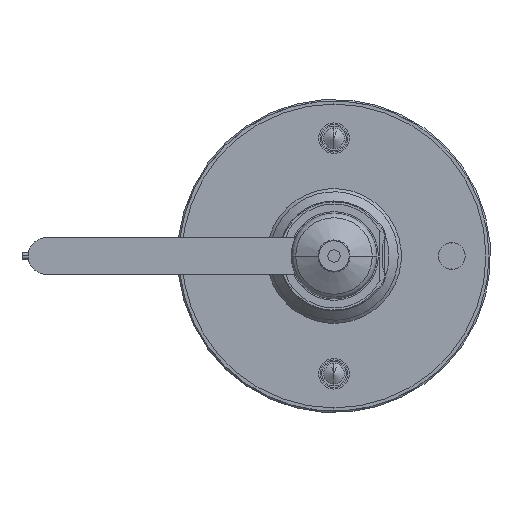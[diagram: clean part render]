
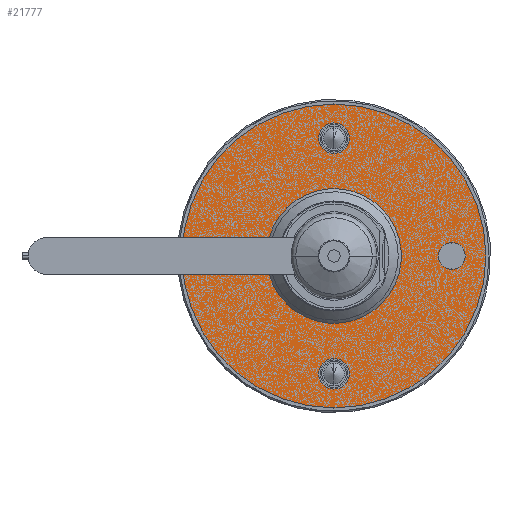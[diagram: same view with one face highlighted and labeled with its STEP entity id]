
A CAD part, front view. The second image highlights one B-rep face of the part: STEP entity #21777.
In plain terms, the highlighted planar face has unit normal (0, -1, 0) as drawn and (0, 0, -1) by its records, which use the part's own axes.
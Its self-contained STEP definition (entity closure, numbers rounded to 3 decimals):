
#659 = CARTESIAN_POINT ( 'NONE',  ( 0., 0., 0. ) ) ;
#949 = DIRECTION ( 'NONE',  ( -1., 0., 0. ) ) ;
#1660 = ORIENTED_EDGE ( 'NONE', *, *, #3667, .T. ) ;
#1855 = EDGE_LOOP ( 'NONE', ( #1660, #26849 ) ) ;
#2011 = ORIENTED_EDGE ( 'NONE', *, *, #3185, .T. ) ;
#2389 = DIRECTION ( 'NONE',  ( 0., 0., -1. ) ) ;
#2668 = FACE_OUTER_BOUND ( 'NONE', #6299, .T. ) ;
#2915 = CARTESIAN_POINT ( 'NONE',  ( 33.5, 0., 0. ) ) ;
#3137 = CARTESIAN_POINT ( 'NONE',  ( -49.675, 0., 0. ) ) ;
#3185 = EDGE_CURVE ( 'NONE', #14459, #20600, #3678, .T. ) ;
#3506 = ORIENTED_EDGE ( 'NONE', *, *, #26904, .T. ) ;
#3667 = EDGE_CURVE ( 'NONE', #15267, #5363, #17283, .T. ) ;
#3678 = CIRCLE ( 'NONE', #22767, 5. ) ;
#3684 = CARTESIAN_POINT ( 'NONE',  ( 49.675, 0., 0. ) ) ;
#4007 = CARTESIAN_POINT ( 'NONE',  ( 16.5, 0., 0. ) ) ;
#4011 = DIRECTION ( 'NONE',  ( 0., 0., 1. ) ) ;
#4138 = CIRCLE ( 'NONE', #11405, 5. ) ;
#4640 = CIRCLE ( 'NONE', #6511, 4.4 ) ;
#4731 = EDGE_CURVE ( 'NONE', #5363, #15267, #22352, .T. ) ;
#4750 = EDGE_CURVE ( 'NONE', #22793, #28224, #14608, .T. ) ;
#5020 = AXIS2_PLACEMENT_3D ( 'NONE', #21919, #4011, #12689 ) ;
#5095 = CIRCLE ( 'NONE', #9709, 16.5 ) ;
#5117 = ORIENTED_EDGE ( 'NONE', *, *, #11579, .T. ) ;
#5154 = CIRCLE ( 'NONE', #15597, 49.675 ) ;
#5174 = ORIENTED_EDGE ( 'NONE', *, *, #12600, .T. ) ;
#5363 = VERTEX_POINT ( 'NONE', #22102 ) ;
#5372 = DIRECTION ( 'NONE',  ( -1., 0., 0. ) ) ;
#5770 = CIRCLE ( 'NONE', #19877, 49.675 ) ;
#5864 = CARTESIAN_POINT ( 'NONE',  ( 0., 38.5, 0. ) ) ;
#5988 = DIRECTION ( 'NONE',  ( -1., 0., 0. ) ) ;
#6147 = FACE_BOUND ( 'NONE', #1855, .T. ) ;
#6299 = EDGE_LOOP ( 'NONE', ( #26790, #28180 ) ) ;
#6353 = VERTEX_POINT ( 'NONE', #22999 ) ;
#6511 = AXIS2_PLACEMENT_3D ( 'NONE', #5864, #14525, #12814 ) ;
#7248 = ORIENTED_EDGE ( 'NONE', *, *, #4750, .T. ) ;
#7311 = DIRECTION ( 'NONE',  ( -1., 0., 0. ) ) ;
#7318 = CIRCLE ( 'NONE', #20994, 5. ) ;
#7499 = DIRECTION ( 'NONE',  ( 0., 0., -1. ) ) ;
#7634 = ORIENTED_EDGE ( 'NONE', *, *, #8896, .T. ) ;
#7784 = AXIS2_PLACEMENT_3D ( 'NONE', #8521, #25528, #5988 ) ;
#8148 = CARTESIAN_POINT ( 'NONE',  ( 4.4, 38.5, 0. ) ) ;
#8271 = EDGE_CURVE ( 'NONE', #27593, #22285, #27220, .T. ) ;
#8521 = CARTESIAN_POINT ( 'NONE',  ( 0., -38.5, 0. ) ) ;
#8655 = DIRECTION ( 'NONE',  ( 0., 0., 1. ) ) ;
#8667 = EDGE_CURVE ( 'NONE', #28224, #22793, #7318, .T. ) ;
#8701 = CARTESIAN_POINT ( 'NONE',  ( 43.5, 0., 0. ) ) ;
#8797 = CARTESIAN_POINT ( 'NONE',  ( 0., 0., 0. ) ) ;
#8896 = EDGE_CURVE ( 'NONE', #20600, #14459, #4138, .T. ) ;
#9709 = AXIS2_PLACEMENT_3D ( 'NONE', #26323, #17870, #13581 ) ;
#9762 = DIRECTION ( 'NONE',  ( -1., 0., 0. ) ) ;
#11214 = FACE_BOUND ( 'NONE', #15046, .T. ) ;
#11405 = AXIS2_PLACEMENT_3D ( 'NONE', #26854, #16413, #7311 ) ;
#11579 = EDGE_CURVE ( 'NONE', #22285, #27593, #4640, .T. ) ;
#11642 = DIRECTION ( 'NONE',  ( 0., 0., 1. ) ) ;
#12465 = CARTESIAN_POINT ( 'NONE',  ( -33.5, 0., 0. ) ) ;
#12600 = EDGE_CURVE ( 'NONE', #6353, #25990, #5095, .T. ) ;
#12689 = DIRECTION ( 'NONE',  ( -1., 0., 0. ) ) ;
#12814 = DIRECTION ( 'NONE',  ( -1., 0., 0. ) ) ;
#13156 = AXIS2_PLACEMENT_3D ( 'NONE', #4007, #2389, #17617 ) ;
#13344 = FACE_BOUND ( 'NONE', #23697, .T. ) ;
#13478 = FACE_BOUND ( 'NONE', #21031, .T. ) ;
#13479 = AXIS2_PLACEMENT_3D ( 'NONE', #8797, #21356, #15330 ) ;
#13581 = DIRECTION ( 'NONE',  ( 1., 0., 0. ) ) ;
#14417 = VERTEX_POINT ( 'NONE', #3684 ) ;
#14459 = VERTEX_POINT ( 'NONE', #8701 ) ;
#14525 = DIRECTION ( 'NONE',  ( 0., 0., 1. ) ) ;
#14608 = CIRCLE ( 'NONE', #27381, 5. ) ;
#15046 = EDGE_LOOP ( 'NONE', ( #7248, #17207 ) ) ;
#15267 = VERTEX_POINT ( 'NONE', #21910 ) ;
#15330 = DIRECTION ( 'NONE',  ( 1., 0., 0. ) ) ;
#15597 = AXIS2_PLACEMENT_3D ( 'NONE', #26897, #7499, #5372 ) ;
#15891 = DIRECTION ( 'NONE',  ( -1., 0., 0. ) ) ;
#16276 = ORIENTED_EDGE ( 'NONE', *, *, #8271, .T. ) ;
#16413 = DIRECTION ( 'NONE',  ( 0., 0., 1. ) ) ;
#17174 = AXIS2_PLACEMENT_3D ( 'NONE', #17519, #11642, #949 ) ;
#17207 = ORIENTED_EDGE ( 'NONE', *, *, #8667, .T. ) ;
#17283 = CIRCLE ( 'NONE', #5020, 4.4 ) ;
#17519 = CARTESIAN_POINT ( 'NONE',  ( 0., 38.5, 0. ) ) ;
#17617 = DIRECTION ( 'NONE',  ( -1., 0., 0. ) ) ;
#17870 = DIRECTION ( 'NONE',  ( 0., 0., 1. ) ) ;
#18306 = CARTESIAN_POINT ( 'NONE',  ( -38.5, 0., 0. ) ) ;
#19150 = CARTESIAN_POINT ( 'NONE',  ( -4.4, 38.5, 0. ) ) ;
#19877 = AXIS2_PLACEMENT_3D ( 'NONE', #659, #24488, #15891 ) ;
#20063 = FACE_BOUND ( 'NONE', #25107, .T. ) ;
#20600 = VERTEX_POINT ( 'NONE', #2915 ) ;
#20994 = AXIS2_PLACEMENT_3D ( 'NONE', #18306, #22601, #9762 ) ;
#21031 = EDGE_LOOP ( 'NONE', ( #7634, #2011 ) ) ;
#21125 = EDGE_CURVE ( 'NONE', #14417, #24565, #5154, .T. ) ;
#21228 = CARTESIAN_POINT ( 'NONE',  ( -38.5, 0., 0. ) ) ;
#21356 = DIRECTION ( 'NONE',  ( 0., 0., 1. ) ) ;
#21777 = ADVANCED_FACE ( 'NONE', ( #2668, #6147, #20063, #13478, #11214, #13344 ), #27961, .T. ) ;
#21910 = CARTESIAN_POINT ( 'NONE',  ( -4.4, -38.5, 0. ) ) ;
#21919 = CARTESIAN_POINT ( 'NONE',  ( 0., -38.5, 0. ) ) ;
#22102 = CARTESIAN_POINT ( 'NONE',  ( 4.4, -38.5, 0. ) ) ;
#22285 = VERTEX_POINT ( 'NONE', #19150 ) ;
#22352 = CIRCLE ( 'NONE', #7784, 4.4 ) ;
#22601 = DIRECTION ( 'NONE',  ( 0., 0., 1. ) ) ;
#22767 = AXIS2_PLACEMENT_3D ( 'NONE', #25417, #25555, #23404 ) ;
#22793 = VERTEX_POINT ( 'NONE', #23272 ) ;
#22999 = CARTESIAN_POINT ( 'NONE',  ( -16.5, 0., 0. ) ) ;
#23094 = EDGE_CURVE ( 'NONE', #24565, #14417, #5770, .T. ) ;
#23272 = CARTESIAN_POINT ( 'NONE',  ( -43.5, 0., 0. ) ) ;
#23404 = DIRECTION ( 'NONE',  ( -1., 0., 0. ) ) ;
#23697 = EDGE_LOOP ( 'NONE', ( #3506, #5174 ) ) ;
#24488 = DIRECTION ( 'NONE',  ( 0., 0., -1. ) ) ;
#24565 = VERTEX_POINT ( 'NONE', #3137 ) ;
#25107 = EDGE_LOOP ( 'NONE', ( #5117, #16276 ) ) ;
#25279 = CARTESIAN_POINT ( 'NONE',  ( 16.5, 0., 0. ) ) ;
#25371 = CIRCLE ( 'NONE', #13479, 16.5 ) ;
#25417 = CARTESIAN_POINT ( 'NONE',  ( 38.5, 0., 0. ) ) ;
#25528 = DIRECTION ( 'NONE',  ( 0., 0., 1. ) ) ;
#25555 = DIRECTION ( 'NONE',  ( 0., 0., 1. ) ) ;
#25803 = DIRECTION ( 'NONE',  ( -1., 0., 0. ) ) ;
#25990 = VERTEX_POINT ( 'NONE', #25279 ) ;
#26323 = CARTESIAN_POINT ( 'NONE',  ( 0., 0., 0. ) ) ;
#26790 = ORIENTED_EDGE ( 'NONE', *, *, #21125, .T. ) ;
#26849 = ORIENTED_EDGE ( 'NONE', *, *, #4731, .T. ) ;
#26854 = CARTESIAN_POINT ( 'NONE',  ( 38.5, 0., 0. ) ) ;
#26897 = CARTESIAN_POINT ( 'NONE',  ( 0., 0., 0. ) ) ;
#26904 = EDGE_CURVE ( 'NONE', #25990, #6353, #25371, .T. ) ;
#27220 = CIRCLE ( 'NONE', #17174, 4.4 ) ;
#27381 = AXIS2_PLACEMENT_3D ( 'NONE', #21228, #8655, #25803 ) ;
#27593 = VERTEX_POINT ( 'NONE', #8148 ) ;
#27961 = PLANE ( 'NONE',  #13156 ) ;
#28180 = ORIENTED_EDGE ( 'NONE', *, *, #23094, .T. ) ;
#28224 = VERTEX_POINT ( 'NONE', #12465 ) ;
